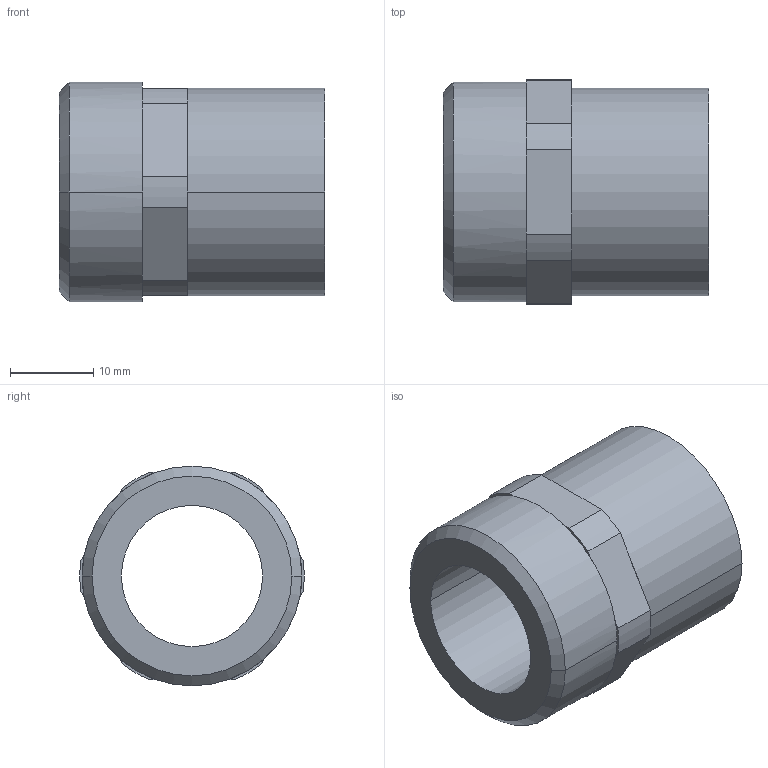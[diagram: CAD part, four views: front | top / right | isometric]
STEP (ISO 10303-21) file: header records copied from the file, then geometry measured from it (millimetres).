
FILE_DESCRIPTION((''),'2;1');
FILE_NAME('4370_22-34(1).stp','2008-05-16T14:13:07',(''),(''),'Mechanical Desktop 2008','Mechanical Desktop 2008',', , ');
FILE_SCHEMA(('CONFIG_CONTROL_DESIGN'));
Length unit declared in the file: millimetre
Products named in the file (2): 4370_22-34(1); CZﾊ姑1
Assembly tree (1 placements, depth 2):
  4370_22-34(1)
    CZﾊ姑1
Bounding box: 32 x 26.97 x 26.44 mm (x, y, z)
Volume: 6818.1 mm3; surface area: 5135.6 mm2
Topology: 1 solids, 1 shells, 43 faces, 100 edges, 60 vertices
Faces by surface type: plane 27, cylinder 14, cone 2
Entity records: 1335 total; most frequent: DIRECTION 238, CARTESIAN_POINT 205, ORIENTED_EDGE 200, EDGE_CURVE 100, AXIS2_PLACEMENT_3D 93, VERTEX_POINT 60, VECTOR 52, LINE 52
